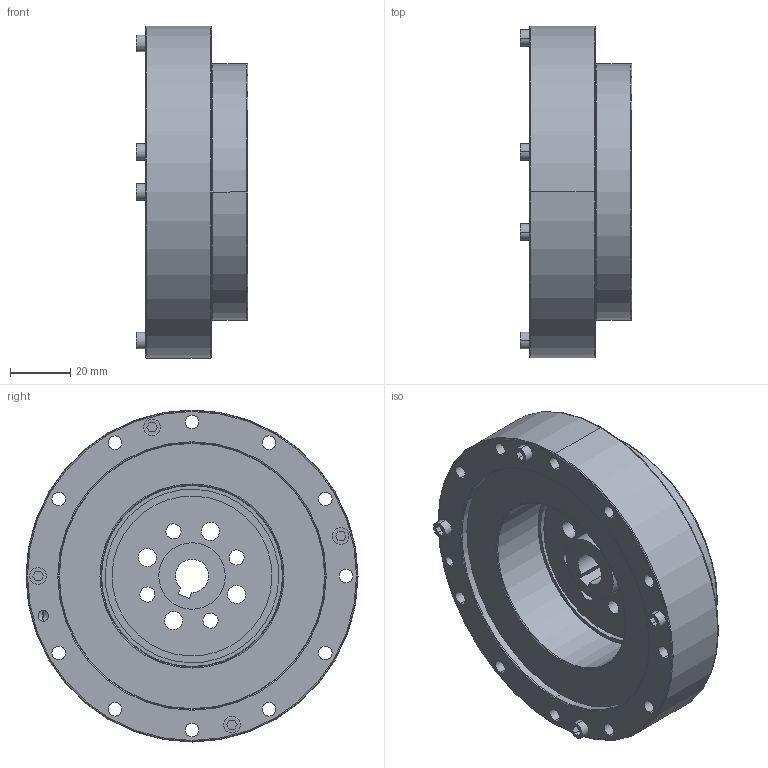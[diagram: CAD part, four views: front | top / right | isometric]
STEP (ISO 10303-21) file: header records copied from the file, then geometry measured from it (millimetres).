
FILE_DESCRIPTION(/* description */ (''),/* implementation_level */ '2;1');
FILE_NAME(/* name */ 'LHT-25-U-I.stp',/* time_stamp */ '2021-12-15T14:57:34+08:00',/* author */ (''),/* organization */ (''),/* preprocessor_version */ 'ST-DEVELOPER v16.7',/* originating_system */ 'SIEMENS PLM Software NX 12.0',/* authorisation */ '');
FILE_SCHEMA (('AUTOMOTIVE_DESIGN { 1 0 10303 214 3 1 1 1 }'));
Length unit declared in the file: millimetre
Products named in the file (14): MANIFOLD_SOLID_BREP_190; MANIFOLD_SOLID_BREP_189; MANIFOLD_SOLID_BREP_188; MANIFOLD_SOLID_BREP_187; MANIFOLD_SOLID_BREP_186; MANIFOLD_SOLID_BREP_185; MANIFOLD_SOLID_BREP_184; MANIFOLD_SOLID_BREP_183; MANIFOLD_SOLID_BREP_182; MANIFOLD_SOLID_BREP_181; MANIFOLD_SOLID_BREP_180; 发生器; ADMI7ED1CHGT_ASM; LHT-25-U-I_stp
Assembly tree (13 placements, depth 3):
  LHT-25-U-I_stp
    ADMI7ED1CHGT_ASM
      MANIFOLD_SOLID_BREP_180
      MANIFOLD_SOLID_BREP_181
      MANIFOLD_SOLID_BREP_182
      MANIFOLD_SOLID_BREP_183
      MANIFOLD_SOLID_BREP_184
      MANIFOLD_SOLID_BREP_185
      MANIFOLD_SOLID_BREP_186
      MANIFOLD_SOLID_BREP_187
      MANIFOLD_SOLID_BREP_188
      MANIFOLD_SOLID_BREP_189
      MANIFOLD_SOLID_BREP_190
    发生器
Bounding box: 37 x 110 x 110 mm (x, y, z)
Volume: 188887.6 mm3; surface area: 58825.6 mm2
Topology: 15 solids, 15 shells, 404 faces, 968 edges, 595 vertices
Faces by surface type: cylinder 178, plane 118, cone 88, torus 20
Full cylindrical faces by diameter (mm): 5 x4, 6 x4, 22 x1, 45 x2, 47.5 x2, 48 x1, 53 x1, 57.5 x2, 60 x2
Entity records: 11776 total; most frequent: DIRECTION 2186, CARTESIAN_POINT 1898, ORIENTED_EDGE 1786, EDGE_CURVE 893, AXIS2_PLACEMENT_3D 875, VERTEX_POINT 587, EDGE_LOOP 522, CIRCLE 457
